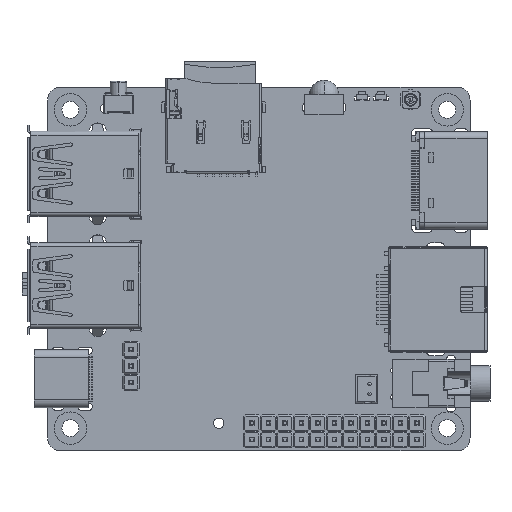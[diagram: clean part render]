
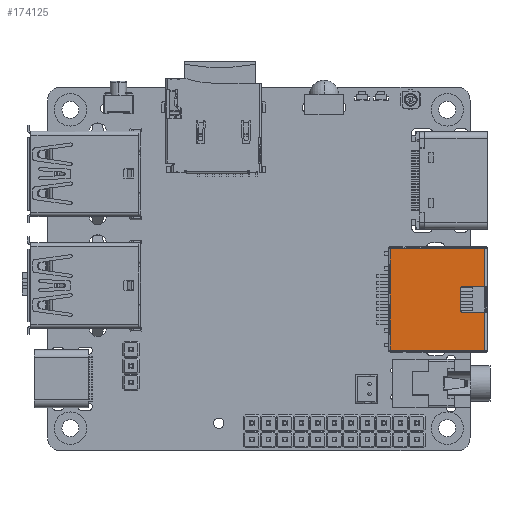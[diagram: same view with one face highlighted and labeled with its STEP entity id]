
A CAD part, top view. The second image highlights one B-rep face of the part: STEP entity #174125.
In plain terms, the highlighted planar face has unit normal (0, 0, 1).
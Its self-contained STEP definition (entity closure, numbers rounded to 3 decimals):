
#3310 = CARTESIAN_POINT ( 'NONE',  ( -7.85, 7.35, 11.1 ) ) ;
#5187 = CARTESIAN_POINT ( 'NONE',  ( 7.85, 7.35, 11.1 ) ) ;
#10536 = CARTESIAN_POINT ( 'NONE',  ( -1.7, -3.5, 11.1 ) ) ;
#10694 = CARTESIAN_POINT ( 'NONE',  ( -7.85, 7.35, 11.1 ) ) ;
#12312 = LINE ( 'NONE', #184673, #197773 ) ;
#17091 = ORIENTED_EDGE ( 'NONE', *, *, #277506, .T. ) ;
#18278 = VERTEX_POINT ( 'NONE', #200421 ) ;
#21972 = AXIS2_PLACEMENT_3D ( 'NONE', #80727, #100495, #77995 ) ;
#23094 = DIRECTION ( 'NONE',  ( -1., 0., 0. ) ) ;
#24536 = CARTESIAN_POINT ( 'NONE',  ( -1.7, -3.8, 11.1 ) ) ;
#28821 = DIRECTION ( 'NONE',  ( 0., -1., 0. ) ) ;
#37528 = EDGE_CURVE ( 'NONE', #249130, #142664, #52833, .T. ) ;
#42233 = VECTOR ( 'NONE', #126980, 1000. ) ;
#44643 = ORIENTED_EDGE ( 'NONE', *, *, #152739, .T. ) ;
#45461 = EDGE_CURVE ( 'NONE', #18278, #87614, #181767, .T. ) ;
#48795 = CARTESIAN_POINT ( 'NONE',  ( 2., -7.2, 11.1 ) ) ;
#49346 = EDGE_CURVE ( 'NONE', #230943, #95175, #12312, .T. ) ;
#50027 = VERTEX_POINT ( 'NONE', #200335 ) ;
#51750 = CARTESIAN_POINT ( 'NONE',  ( 7.85, 7.35, 11.1 ) ) ;
#52674 = CARTESIAN_POINT ( 'NONE',  ( -7.85, -7.2, 11.1 ) ) ;
#52833 = LINE ( 'NONE', #164381, #61746 ) ;
#55092 = LINE ( 'NONE', #141261, #259226 ) ;
#55900 = CARTESIAN_POINT ( 'NONE',  ( 7.85, -7.6, 11.1 ) ) ;
#56568 = EDGE_CURVE ( 'NONE', #224046, #101460, #239206, .T. ) ;
#61746 = VECTOR ( 'NONE', #250604, 1000. ) ;
#64739 = ORIENTED_EDGE ( 'NONE', *, *, #56568, .F. ) ;
#66109 = CARTESIAN_POINT ( 'NONE',  ( 2., -3.8, 11.1 ) ) ;
#73876 = VERTEX_POINT ( 'NONE', #5187 ) ;
#77995 = DIRECTION ( 'NONE',  ( -1., 0., 0. ) ) ;
#80727 = CARTESIAN_POINT ( 'NONE',  ( 1.7, -3.8, 11.1 ) ) ;
#81124 = VECTOR ( 'NONE', #28821, 1000. ) ;
#84457 = ORIENTED_EDGE ( 'NONE', *, *, #45461, .T. ) ;
#87138 = VECTOR ( 'NONE', #127238, 1000. ) ;
#87614 = VERTEX_POINT ( 'NONE', #10694 ) ;
#93880 = LINE ( 'NONE', #115131, #190772 ) ;
#95175 = VERTEX_POINT ( 'NONE', #246040 ) ;
#95490 = CARTESIAN_POINT ( 'NONE',  ( 0.828, 7.35, 11.1 ) ) ;
#98019 = ORIENTED_EDGE ( 'NONE', *, *, #246364, .F. ) ;
#100495 = DIRECTION ( 'NONE',  ( 0., 0., -1. ) ) ;
#101025 = FACE_OUTER_BOUND ( 'NONE', #229244, .T. ) ;
#101460 = VERTEX_POINT ( 'NONE', #95490 ) ;
#102591 = LINE ( 'NONE', #256614, #203949 ) ;
#107118 = ORIENTED_EDGE ( 'NONE', *, *, #49346, .F. ) ;
#113433 = DIRECTION ( 'NONE',  ( 0., 0., -1. ) ) ;
#113807 = CARTESIAN_POINT ( 'NONE',  ( 3.108, 7.35, 11.1 ) ) ;
#114841 = VECTOR ( 'NONE', #196686, 1000. ) ;
#115131 = CARTESIAN_POINT ( 'NONE',  ( 7.85, -7.2, 11.1 ) ) ;
#115302 = DIRECTION ( 'NONE',  ( -1., 0., 0. ) ) ;
#117286 = EDGE_CURVE ( 'NONE', #190635, #87614, #176937, .T. ) ;
#125857 = LINE ( 'NONE', #169710, #87138 ) ;
#126980 = DIRECTION ( 'NONE',  ( 1., 0., 0. ) ) ;
#127238 = DIRECTION ( 'NONE',  ( 1., 0., 0. ) ) ;
#129607 = LINE ( 'NONE', #194649, #161712 ) ;
#129674 = VECTOR ( 'NONE', #115302, 1000. ) ;
#132927 = EDGE_CURVE ( 'NONE', #18278, #224046, #125857, .T. ) ;
#134943 = EDGE_CURVE ( 'NONE', #190635, #95175, #93880, .T. ) ;
#138206 = ORIENTED_EDGE ( 'NONE', *, *, #132927, .F. ) ;
#141261 = CARTESIAN_POINT ( 'NONE',  ( 7.85, -7.2, 11.1 ) ) ;
#142664 = VERTEX_POINT ( 'NONE', #10536 ) ;
#146701 = DIRECTION ( 'NONE',  ( -1., 0., 0. ) ) ;
#151840 = LINE ( 'NONE', #237953, #81124 ) ;
#152739 = EDGE_CURVE ( 'NONE', #73876, #50027, #129607, .T. ) ;
#161712 = VECTOR ( 'NONE', #146701, 1000. ) ;
#164381 = CARTESIAN_POINT ( 'NONE',  ( 0., -3.5, 11.1 ) ) ;
#164682 = DIRECTION ( 'NONE',  ( 0., 0., 1. ) ) ;
#165044 = ORIENTED_EDGE ( 'NONE', *, *, #37528, .F. ) ;
#166570 = ORIENTED_EDGE ( 'NONE', *, *, #170215, .T. ) ;
#169710 = CARTESIAN_POINT ( 'NONE',  ( -3.108, 7.35, 11.1 ) ) ;
#170215 = EDGE_CURVE ( 'NONE', #231547, #203869, #151840, .T. ) ;
#171485 = DIRECTION ( 'NONE',  ( 1., 0., 0. ) ) ;
#174125 = ADVANCED_FACE ( 'NONE', ( #101025 ), #250901, .T. ) ;
#176937 = LINE ( 'NONE', #198072, #114841 ) ;
#177500 = LINE ( 'NONE', #113807, #42233 ) ;
#181305 = ORIENTED_EDGE ( 'NONE', *, *, #134943, .T. ) ;
#181767 = LINE ( 'NONE', #51750, #129674 ) ;
#184579 = CIRCLE ( 'NONE', #21972, 0.3 ) ;
#184673 = CARTESIAN_POINT ( 'NONE',  ( -2., -5.35, 11.1 ) ) ;
#187303 = DIRECTION ( 'NONE',  ( 1., 0., 0. ) ) ;
#187447 = ORIENTED_EDGE ( 'NONE', *, *, #117286, .F. ) ;
#188540 = AXIS2_PLACEMENT_3D ( 'NONE', #24536, #113433, #23094 ) ;
#188716 = ORIENTED_EDGE ( 'NONE', *, *, #277878, .T. ) ;
#190635 = VERTEX_POINT ( 'NONE', #52674 ) ;
#190772 = VECTOR ( 'NONE', #226781, 1000. ) ;
#194649 = CARTESIAN_POINT ( 'NONE',  ( 7.85, 7.35, 11.1 ) ) ;
#196686 = DIRECTION ( 'NONE',  ( 0., 1., 0. ) ) ;
#197773 = VECTOR ( 'NONE', #249658, 1000. ) ;
#198072 = CARTESIAN_POINT ( 'NONE',  ( -7.85, 0.075, 11.1 ) ) ;
#199037 = EDGE_CURVE ( 'NONE', #101460, #50027, #177500, .T. ) ;
#200335 = CARTESIAN_POINT ( 'NONE',  ( 5.389, 7.35, 11.1 ) ) ;
#200421 = CARTESIAN_POINT ( 'NONE',  ( -5.389, 7.35, 11.1 ) ) ;
#203869 = VERTEX_POINT ( 'NONE', #48795 ) ;
#203949 = VECTOR ( 'NONE', #232624, 1000. ) ;
#210171 = ORIENTED_EDGE ( 'NONE', *, *, #199037, .F. ) ;
#217786 = CARTESIAN_POINT ( 'NONE',  ( -0.828, 7.35, 11.1 ) ) ;
#218299 = AXIS2_PLACEMENT_3D ( 'NONE', #55900, #164682, #187303 ) ;
#219485 = CARTESIAN_POINT ( 'NONE',  ( -2., -3.8, 11.1 ) ) ;
#224046 = VERTEX_POINT ( 'NONE', #217786 ) ;
#226781 = DIRECTION ( 'NONE',  ( 1., 0., 0. ) ) ;
#229244 = EDGE_LOOP ( 'NONE', ( #64739, #138206, #84457, #187447, #181305, #107118, #17091, #165044, #250632, #166570, #188716, #98019, #44643, #210171 ) ) ;
#230943 = VERTEX_POINT ( 'NONE', #219485 ) ;
#231547 = VERTEX_POINT ( 'NONE', #66109 ) ;
#231736 = CARTESIAN_POINT ( 'NONE',  ( 1.7, -3.5, 11.1 ) ) ;
#232624 = DIRECTION ( 'NONE',  ( 0., -1., 0. ) ) ;
#237953 = CARTESIAN_POINT ( 'NONE',  ( 2., -5.35, 11.1 ) ) ;
#238638 = CARTESIAN_POINT ( 'NONE',  ( 7.85, -7.2, 11.1 ) ) ;
#239206 = LINE ( 'NONE', #3310, #256809 ) ;
#246040 = CARTESIAN_POINT ( 'NONE',  ( -2., -7.2, 11.1 ) ) ;
#246364 = EDGE_CURVE ( 'NONE', #73876, #271087, #102591, .T. ) ;
#246607 = EDGE_CURVE ( 'NONE', #249130, #231547, #184579, .T. ) ;
#249130 = VERTEX_POINT ( 'NONE', #231736 ) ;
#249658 = DIRECTION ( 'NONE',  ( 0., -1., 0. ) ) ;
#250604 = DIRECTION ( 'NONE',  ( -1., 0., 0. ) ) ;
#250632 = ORIENTED_EDGE ( 'NONE', *, *, #246607, .T. ) ;
#250901 = PLANE ( 'NONE',  #218299 ) ;
#256614 = CARTESIAN_POINT ( 'NONE',  ( 7.85, 0.075, 11.1 ) ) ;
#256809 = VECTOR ( 'NONE', #171485, 1000. ) ;
#259226 = VECTOR ( 'NONE', #272642, 1000. ) ;
#269593 = CIRCLE ( 'NONE', #188540, 0.3 ) ;
#271087 = VERTEX_POINT ( 'NONE', #238638 ) ;
#272642 = DIRECTION ( 'NONE',  ( 1., 0., 0. ) ) ;
#277506 = EDGE_CURVE ( 'NONE', #230943, #142664, #269593, .T. ) ;
#277878 = EDGE_CURVE ( 'NONE', #203869, #271087, #55092, .T. ) ;
